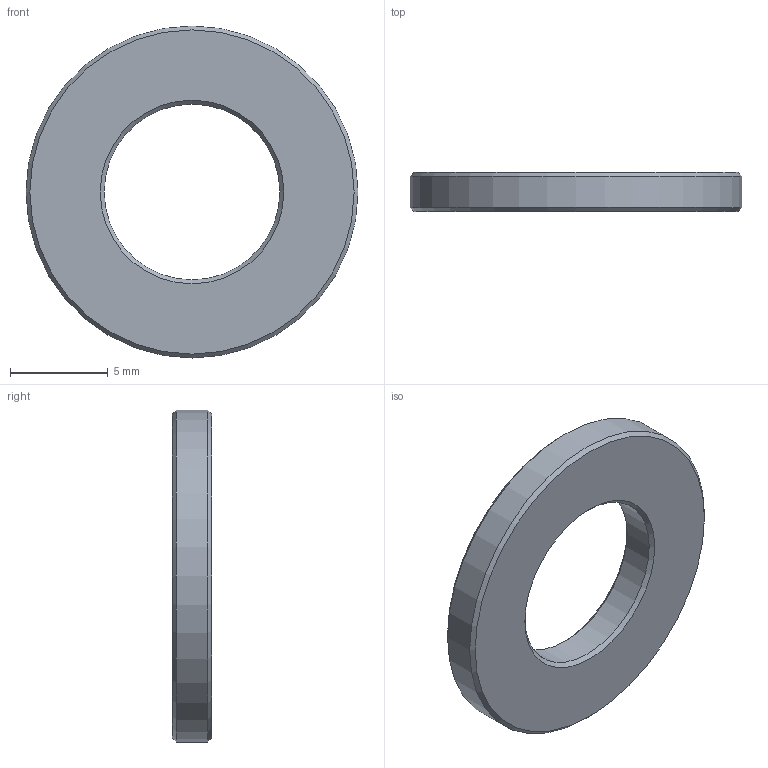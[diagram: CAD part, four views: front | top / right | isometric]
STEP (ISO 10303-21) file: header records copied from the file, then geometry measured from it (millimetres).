
FILE_DESCRIPTION(/* description */ ('Unknown'),/* implementation_level */ '2;1');
FILE_NAME(/* name */ 'Spacer',/* time_stamp */ '2020-08-15T14:33:25+03:00',/* author */ ('Unknown'),/* organization */ ('Unknown'),/* preprocessor_version */ 'ST-DEVELOPER v16.7',/* originating_system */ 'Solid Edge',/* authorisation */ 'Unknown');
FILE_SCHEMA (('AUTOMOTIVE_DESIGN {1 0 10303 214 3 1 1}'));
Length unit declared in the file: millimetre
Products named in the file (1): Spacer
Bounding box: 17 x 2 x 17 mm (x, y, z)
Volume: 323.5 mm3; surface area: 470.9 mm2
Topology: 1 solids, 1 shells, 8 faces, 14 edges, 8 vertices
Faces by surface type: cone 4, cylinder 2, plane 2
Full cylindrical faces by diameter (mm): 9 x1, 17 x1
Entity records: 198 total; most frequent: DIRECTION 34, CARTESIAN_POINT 25, AXIS2_PLACEMENT_3D 17, ORIENTED_EDGE 16, EDGE_LOOP 16, FACE_BOUND 16, EDGE_CURVE 8, VERTEX_POINT 8
